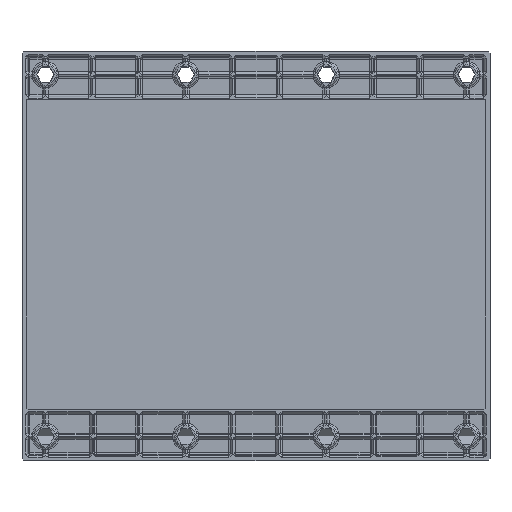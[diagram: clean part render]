
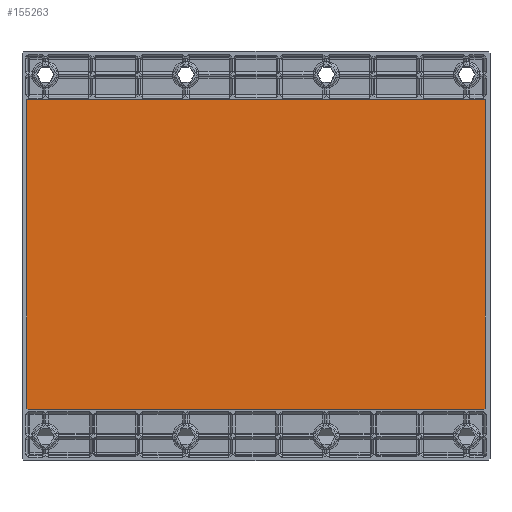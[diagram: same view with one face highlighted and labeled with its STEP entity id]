
A CAD part, top view. The second image highlights one B-rep face of the part: STEP entity #155263.
In plain terms, the highlighted planar face has unit normal (0, 0, 1).
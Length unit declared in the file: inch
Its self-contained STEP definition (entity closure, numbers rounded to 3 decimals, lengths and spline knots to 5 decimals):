
#9972 = CARTESIAN_POINT ( 'NONE',  ( -0.31904, 5.22513, 0. ) ) ;
#19494 = LINE ( 'NONE', #9972, #463627 ) ;
#37515 = CARTESIAN_POINT ( 'NONE',  ( -0.28858, -0.05304, 0. ) ) ;
#57211 =( BOUNDED_CURVE ( )  B_SPLINE_CURVE ( 3, ( #287092, #296601, #178062, #180468 ),
 .UNSPECIFIED., .F., .F. ) 
 B_SPLINE_CURVE_WITH_KNOTS ( ( 4, 4 ),
 ( 0., 0.09717 ),
 .UNSPECIFIED. ) 
 CURVE ( )  GEOMETRIC_REPRESENTATION_ITEM ( )  RATIONAL_B_SPLINE_CURVE ( ( 1., 0.999, 0.999, 1. ) ) 
 REPRESENTATION_ITEM ( '' )  );
#57394 = VERTEX_POINT ( 'NONE', #170745 ) ;
#66987 = DIRECTION ( 'NONE',  ( 1., 0., 0. ) ) ;
#67274 = CARTESIAN_POINT ( 'NONE',  ( 7.49064, -0.08304, 0. ) ) ;
#77222 = VERTEX_POINT ( 'NONE', #191705 ) ;
#79649 = EDGE_LOOP ( 'NONE', ( #452541, #333502, #232804, #312813, #458492, #476807, #374636 ) ) ;
#83536 = AXIS2_PLACEMENT_3D ( 'NONE', #37515, #409999, #105403 ) ;
#90396 =( BOUNDED_CURVE ( )  B_SPLINE_CURVE ( 3, ( #432518, #132697, #321199, #94107 ),
 .UNSPECIFIED., .F., .T. ) 
 B_SPLINE_CURVE_WITH_KNOTS ( ( 4, 4 ),
 ( 4.81259, 6.28319 ),
 .UNSPECIFIED. ) 
 CURVE ( )  GEOMETRIC_REPRESENTATION_ITEM ( )  RATIONAL_B_SPLINE_CURVE ( ( 1., 0.828, 0.828, 1. ) ) 
 REPRESENTATION_ITEM ( '' )  );
#94107 = CARTESIAN_POINT ( 'NONE',  ( 7.52087, -0.05604, 0. ) ) ;
#95963 = CARTESIAN_POINT ( 'NONE',  ( 7.52101, -0.05313, 0. ) ) ;
#105403 = DIRECTION ( 'NONE',  ( 1., 0., 0. ) ) ;
#105716 = LINE ( 'NONE', #475627, #154710 ) ;
#119722 = EDGE_CURVE ( 'NONE', #398647, #341684, #19494, .T. ) ;
#130210 = CARTESIAN_POINT ( 'NONE',  ( -0.31904, -0.05313, 0. ) ) ;
#132697 = CARTESIAN_POINT ( 'NONE',  ( 7.5071, -0.08304, 0. ) ) ;
#147360 = EDGE_CURVE ( 'NONE', #77222, #57394, #437304, .T. ) ;
#151348 = VECTOR ( 'NONE', #323082, 39.37008 ) ;
#154710 = VECTOR ( 'NONE', #66987, 39.37008 ) ;
#155263 = ADVANCED_FACE ( 'NONE', ( #301075 ), #184996, .T. ) ;
#157370 = DIRECTION ( 'NONE',  ( 0., -1., 0. ) ) ;
#162304 = CARTESIAN_POINT ( 'NONE',  ( -0.31904, -0.07066, 0. ) ) ;
#170745 = CARTESIAN_POINT ( 'NONE',  ( 7.49064, -0.08304, 0. ) ) ;
#178062 = CARTESIAN_POINT ( 'NONE',  ( 7.52101, -0.0541, 0. ) ) ;
#180468 = CARTESIAN_POINT ( 'NONE',  ( 7.52101, -0.05313, 0. ) ) ;
#184996 = PLANE ( 'NONE',  #83536 ) ;
#191705 = CARTESIAN_POINT ( 'NONE',  ( -0.28867, -0.08304, 0. ) ) ;
#203317 = CARTESIAN_POINT ( 'NONE',  ( -0.30648, -0.08304, 0. ) ) ;
#211318 = CARTESIAN_POINT ( 'NONE',  ( -0.31904, 5.22513, 0. ) ) ;
#214806 = EDGE_CURVE ( 'NONE', #467070, #388297, #57211, .T. ) ;
#217103 = EDGE_CURVE ( 'NONE', #388297, #394864, #277465, .T. ) ;
#232804 = ORIENTED_EDGE ( 'NONE', *, *, #119722, .T. ) ;
#247484 = EDGE_CURVE ( 'NONE', #398647, #394864, #105716, .T. ) ;
#251080 = DIRECTION ( 'NONE',  ( 1., 0., 0. ) ) ;
#276039 = CARTESIAN_POINT ( 'NONE',  ( -0.31904, -0.05313, 0. ) ) ;
#277465 = LINE ( 'NONE', #95963, #151348 ) ;
#287092 = CARTESIAN_POINT ( 'NONE',  ( 7.52087, -0.05604, 0. ) ) ;
#296601 = CARTESIAN_POINT ( 'NONE',  ( 7.52097, -0.05507, 0. ) ) ;
#301075 = FACE_OUTER_BOUND ( 'NONE', #79649, .T. ) ;
#312813 = ORIENTED_EDGE ( 'NONE', *, *, #381274, .T. ) ;
#321199 = CARTESIAN_POINT ( 'NONE',  ( 7.51927, -0.07217, 0. ) ) ;
#323082 = DIRECTION ( 'NONE',  ( 0., 1., 0. ) ) ;
#333502 = ORIENTED_EDGE ( 'NONE', *, *, #247484, .F. ) ;
#341684 = VERTEX_POINT ( 'NONE', #130210 ) ;
#341860 = CARTESIAN_POINT ( 'NONE',  ( 7.52101, 5.22513, 0. ) ) ;
#357337 = VECTOR ( 'NONE', #251080, 39.37008 ) ;
#366128 = CARTESIAN_POINT ( 'NONE',  ( 7.52101, -0.05313, 0. ) ) ;
#374636 = ORIENTED_EDGE ( 'NONE', *, *, #214806, .T. ) ;
#381274 = EDGE_CURVE ( 'NONE', #341684, #77222, #417342, .T. ) ;
#388297 = VERTEX_POINT ( 'NONE', #366128 ) ;
#394864 = VERTEX_POINT ( 'NONE', #341860 ) ;
#398647 = VERTEX_POINT ( 'NONE', #211318 ) ;
#409999 = DIRECTION ( 'NONE',  ( 0., 0., 1. ) ) ;
#415515 = EDGE_CURVE ( 'NONE', #57394, #467070, #90396, .T. ) ;
#417342 =( BOUNDED_CURVE ( )  B_SPLINE_CURVE ( 3, ( #276039, #162304, #203317, #421205 ),
 .UNSPECIFIED., .F., .F. ) 
 B_SPLINE_CURVE_WITH_KNOTS ( ( 4, 4 ),
 ( 3.04443, 4.61219 ),
 .UNSPECIFIED. ) 
 CURVE ( )  GEOMETRIC_REPRESENTATION_ITEM ( )  RATIONAL_B_SPLINE_CURVE ( ( 1., 0.805, 0.805, 1. ) ) 
 REPRESENTATION_ITEM ( '' )  );
#421205 = CARTESIAN_POINT ( 'NONE',  ( -0.28867, -0.08304, 0. ) ) ;
#432518 = CARTESIAN_POINT ( 'NONE',  ( 7.49064, -0.08304, 0. ) ) ;
#437304 = LINE ( 'NONE', #67274, #357337 ) ;
#452541 = ORIENTED_EDGE ( 'NONE', *, *, #217103, .T. ) ;
#458492 = ORIENTED_EDGE ( 'NONE', *, *, #147360, .T. ) ;
#463627 = VECTOR ( 'NONE', #157370, 39.37008 ) ;
#467070 = VERTEX_POINT ( 'NONE', #470768 ) ;
#470768 = CARTESIAN_POINT ( 'NONE',  ( 7.52087, -0.05604, 0. ) ) ;
#475627 = CARTESIAN_POINT ( 'NONE',  ( -0.32091, 5.22513, 0. ) ) ;
#476807 = ORIENTED_EDGE ( 'NONE', *, *, #415515, .T. ) ;
